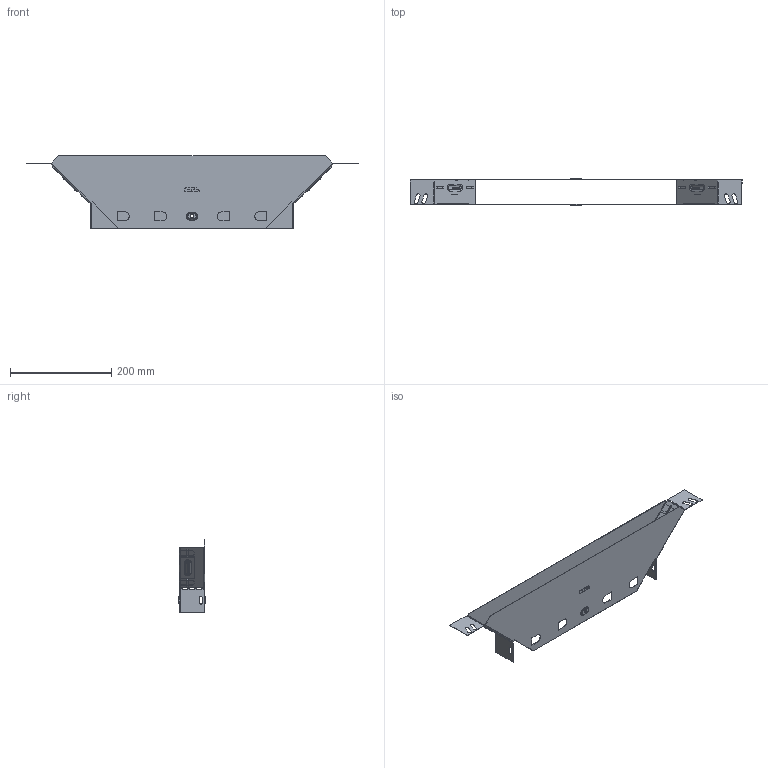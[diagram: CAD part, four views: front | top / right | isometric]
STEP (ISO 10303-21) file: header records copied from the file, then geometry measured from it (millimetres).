
FILE_DESCRIPTION (( 'STEP AP214' ), '1' );
FILE_NAME ('tn5040008_捘.STEP', '2019-06-10T08:00:10', ( '砐錪賧瘔蠈錪 Windows' ), ( '' ), 'SwSTEP 2.0', 'SolidWorks 2018', '' );
FILE_SCHEMA (( 'AUTOMOTIVE_DESIGN' ));
Length unit declared in the file: millimetre
Products named in the file (1): tn5040008_捘
Bounding box: 656.02 x 53.8 x 144 mm (x, y, z)
Volume: 115031.6 mm3; surface area: 291324.3 mm2
Topology: 2 solids, 2 shells, 588 faces, 1632 edges, 1040 vertices
Faces by surface type: plane 356, cylinder 166, torus 48, bspline 18
Entity records: 19611 total; most frequent: CARTESIAN_POINT 4219, ORIENTED_EDGE 3264, DIRECTION 3142, EDGE_CURVE 1632, VECTOR 1192, LINE 1192, VERTEX_POINT 1040, AXIS2_PLACEMENT_3D 975
